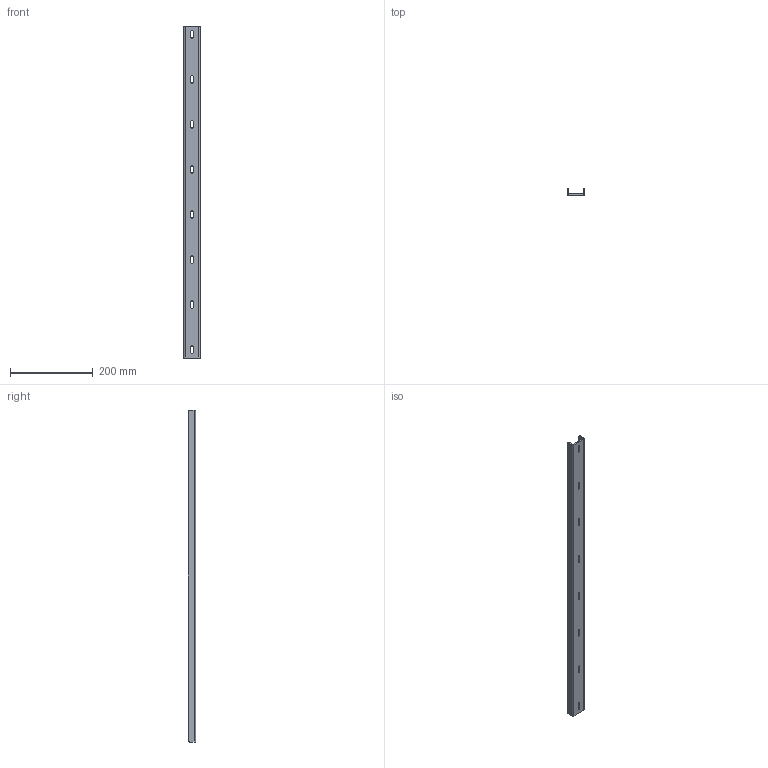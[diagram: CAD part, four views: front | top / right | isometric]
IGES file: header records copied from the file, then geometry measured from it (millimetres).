
Start section: SolidWorks IGES file using analytic representation for surfaces
Bounding box: 40 x 17 x 800 mm (x, y, z)
Surface area: 110903.5 mm2 (no closed solid volume)
Topology: 0 solids, 0 shells, 102 faces, 1286 edges, 1286 vertices
Faces by surface type: bspline 72, revolution 30
